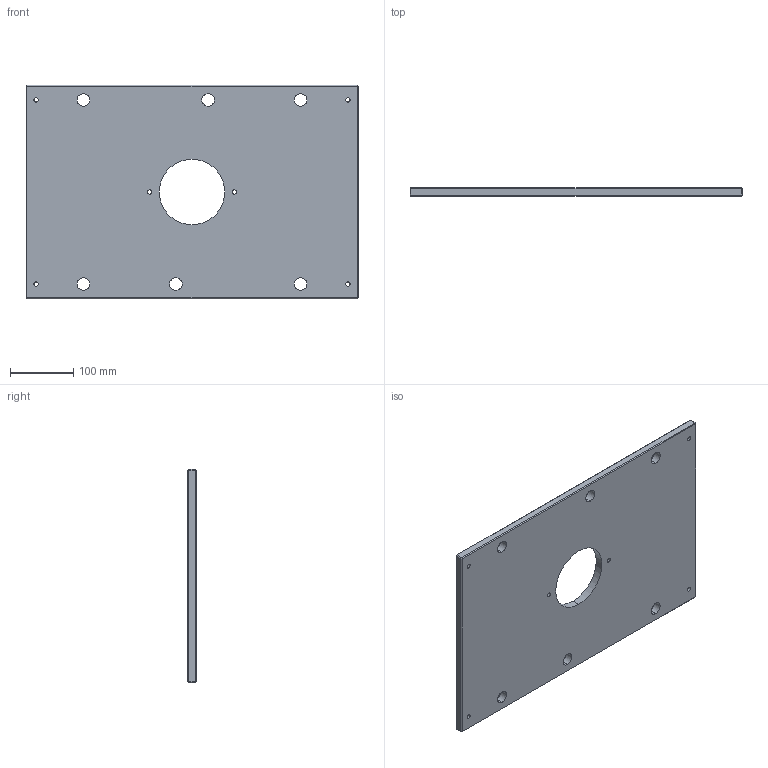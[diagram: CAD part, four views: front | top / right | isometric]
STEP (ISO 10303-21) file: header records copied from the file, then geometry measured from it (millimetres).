
FILE_DESCRIPTION (( 'STEP AP214' ), '1' );
FILE_NAME ('ME-0619-CH-1321-B.STEP', '2020-02-12T13:41:12', ( '' ), ( '' ), 'SwSTEP 2.0', 'SolidWorks 2018', '' );
FILE_SCHEMA (( 'AUTOMOTIVE_DESIGN' ));
Length unit declared in the file: inch
Products named in the file (1): ME-0619-CH-1321-B
Bounding box: 523.88 x 12.7 x 336.55 mm (x, y, z)
Volume: 2102540.6 mm3; surface area: 361347.9 mm2
Topology: 1 solids, 1 shells, 64 faces, 150 edges, 88 vertices
Faces by surface type: cylinder 26, plane 26, cone 12
Entity records: 1902 total; most frequent: DIRECTION 344, CARTESIAN_POINT 303, ORIENTED_EDGE 300, EDGE_CURVE 150, AXIS2_PLACEMENT_3D 129, EDGE_LOOP 90, VERTEX_POINT 88, VECTOR 86
